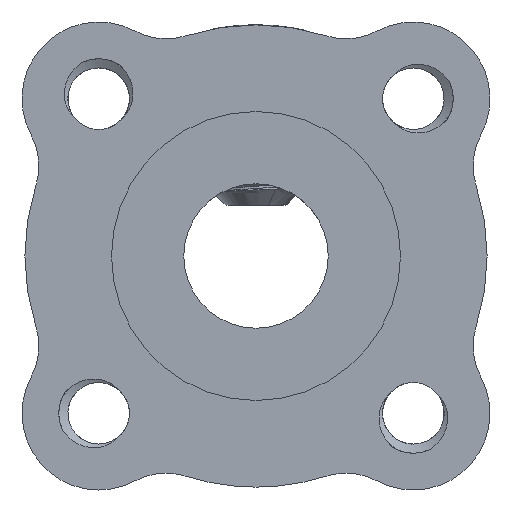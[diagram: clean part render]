
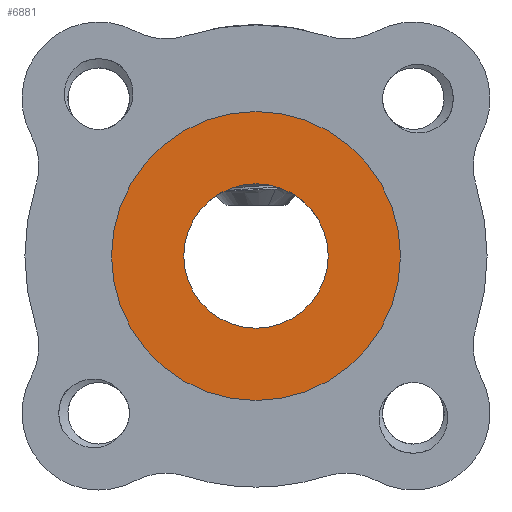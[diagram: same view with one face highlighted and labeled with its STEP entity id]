
A CAD part, front view. The second image highlights one B-rep face of the part: STEP entity #6881.
In plain terms, the highlighted planar face has unit normal (0, -1, 0).
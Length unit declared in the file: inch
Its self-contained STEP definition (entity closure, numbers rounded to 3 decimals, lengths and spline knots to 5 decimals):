
#40 = CARTESIAN_POINT ( 'NONE',  ( 0., 0., 0. ) ) ;
#1081 = EDGE_CURVE ( 'NONE', #7954, #20191, #9452, .T. ) ;
#2345 = DIRECTION ( 'NONE',  ( 0., 1., 0. ) ) ;
#3280 = CARTESIAN_POINT ( 'NONE',  ( 0., 0., -0.25 ) ) ;
#3967 = AXIS2_PLACEMENT_3D ( 'NONE', #8788, #20562, #10483 ) ;
#4195 = CARTESIAN_POINT ( 'NONE',  ( 0., 0., 0. ) ) ;
#4987 = DIRECTION ( 'NONE',  ( 0., 0., 1. ) ) ;
#5518 = DIRECTION ( 'NONE',  ( 0., 1., 0. ) ) ;
#5690 = PLANE ( 'NONE',  #10054 ) ;
#5881 = CARTESIAN_POINT ( 'NONE',  ( 0., 0., -0.125 ) ) ;
#6258 = ORIENTED_EDGE ( 'NONE', *, *, #8233, .F. ) ;
#6881 = ADVANCED_FACE ( 'NONE', ( #8061, #15975 ), #5690, .F. ) ;
#7310 = DIRECTION ( 'NONE',  ( 0., 0., 1. ) ) ;
#7954 = VERTEX_POINT ( 'NONE', #19501 ) ;
#8061 = FACE_BOUND ( 'NONE', #20708, .T. ) ;
#8185 = CIRCLE ( 'NONE', #3967, 0.125 ) ;
#8233 = EDGE_CURVE ( 'NONE', #12033, #16185, #10914, .T. ) ;
#8781 = AXIS2_PLACEMENT_3D ( 'NONE', #13593, #5518, #14104 ) ;
#8788 = CARTESIAN_POINT ( 'NONE',  ( 0., 0., 0. ) ) ;
#9452 = CIRCLE ( 'NONE', #11040, 0.125 ) ;
#10054 = AXIS2_PLACEMENT_3D ( 'NONE', #4195, #2345, #10733 ) ;
#10483 = DIRECTION ( 'NONE',  ( 0., 0., 1. ) ) ;
#10733 = DIRECTION ( 'NONE',  ( 0., 0., 1. ) ) ;
#10914 = CIRCLE ( 'NONE', #8781, 0.25 ) ;
#11040 = AXIS2_PLACEMENT_3D ( 'NONE', #17399, #20766, #7310 ) ;
#11107 = ORIENTED_EDGE ( 'NONE', *, *, #20612, .F. ) ;
#11331 = CARTESIAN_POINT ( 'NONE',  ( 0., 0., 0.25 ) ) ;
#12033 = VERTEX_POINT ( 'NONE', #11331 ) ;
#13593 = CARTESIAN_POINT ( 'NONE',  ( 0., 0., 0. ) ) ;
#13864 = AXIS2_PLACEMENT_3D ( 'NONE', #40, #20055, #4987 ) ;
#14104 = DIRECTION ( 'NONE',  ( 0., 0., 1. ) ) ;
#15501 = ORIENTED_EDGE ( 'NONE', *, *, #19535, .T. ) ;
#15975 = FACE_OUTER_BOUND ( 'NONE', #19787, .T. ) ;
#16185 = VERTEX_POINT ( 'NONE', #3280 ) ;
#16460 = ORIENTED_EDGE ( 'NONE', *, *, #1081, .T. ) ;
#17399 = CARTESIAN_POINT ( 'NONE',  ( 0., 0., 0. ) ) ;
#19468 = CIRCLE ( 'NONE', #13864, 0.25 ) ;
#19501 = CARTESIAN_POINT ( 'NONE',  ( 0., 0., 0.125 ) ) ;
#19535 = EDGE_CURVE ( 'NONE', #20191, #7954, #8185, .T. ) ;
#19787 = EDGE_LOOP ( 'NONE', ( #11107, #6258 ) ) ;
#20055 = DIRECTION ( 'NONE',  ( 0., 1., 0. ) ) ;
#20191 = VERTEX_POINT ( 'NONE', #5881 ) ;
#20562 = DIRECTION ( 'NONE',  ( 0., 1., 0. ) ) ;
#20612 = EDGE_CURVE ( 'NONE', #16185, #12033, #19468, .T. ) ;
#20708 = EDGE_LOOP ( 'NONE', ( #16460, #15501 ) ) ;
#20766 = DIRECTION ( 'NONE',  ( 0., 1., 0. ) ) ;
